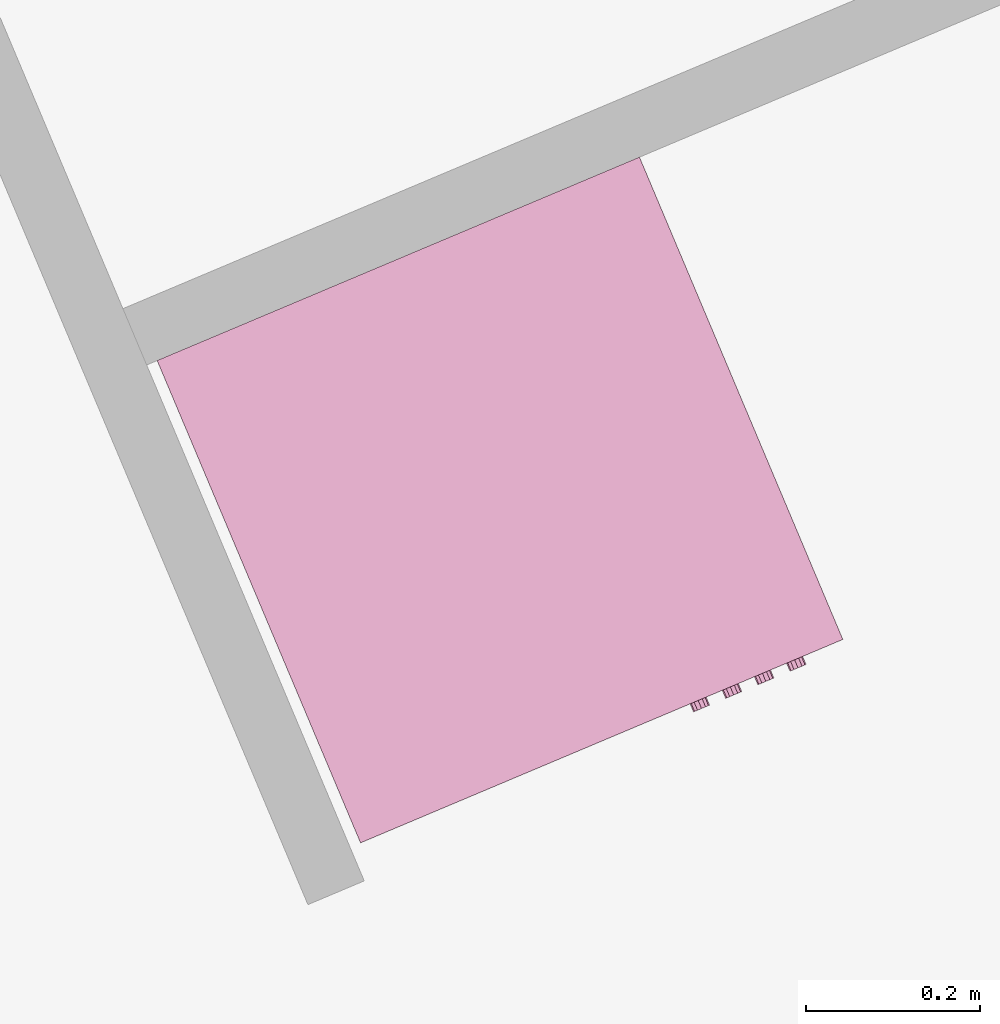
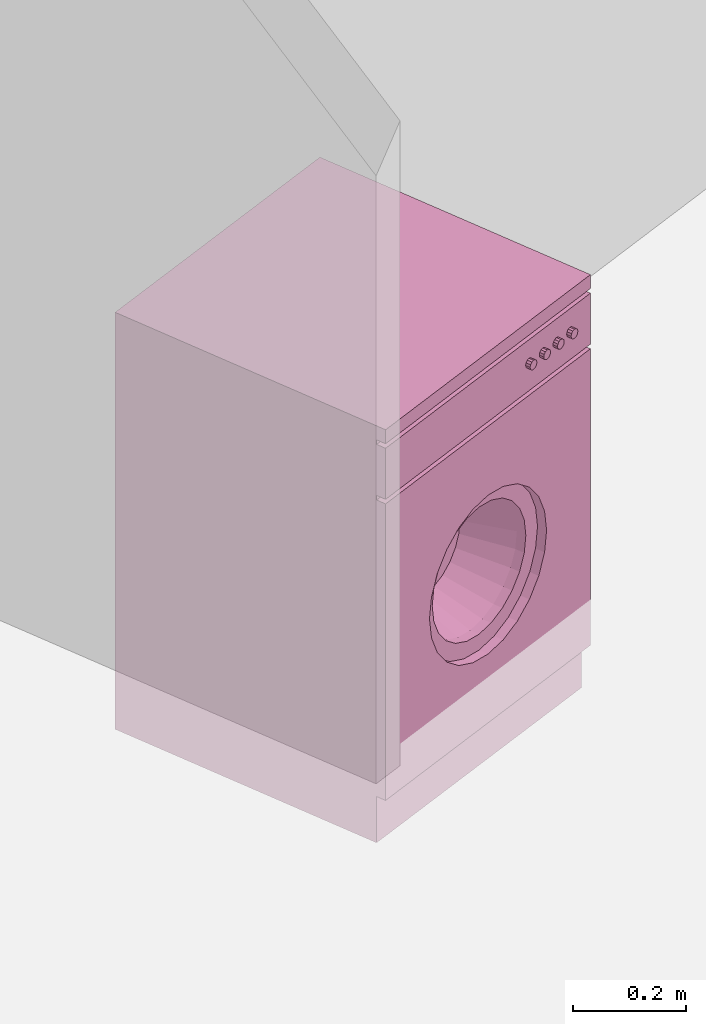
# One storey, part 157 of 195: 1 furnishing.
"""IFC2X3 building model written with IfcOpenShell, lengths in metres."""

import ifcopenshell
import ifcopenshell.guid

model = None  # the IFC model being written
_history = None  # IfcOwnerHistory: only IFC2X3 demands one
_inside = {}  # id of a spatial element -> (the spatial element, [elements in it])
_under = {}  # id of a project, library or spatial element -> (it, [spatial elements below it])
_declared = {}  # id of a project -> (the project, [libraries it declares])
_typed = {}  # id of a type object -> (the type object, [elements of that type])
_made_of = {}  # id of a material, layer set ... -> (it, [elements and type objects made of it])


def new_model(schema):
    """Start an empty IFC model of exactly this schema.

    Asked for "IFC4X3", IfcOpenShell would pick the latest addendum, in which some entities
    have other attributes; the version numbers below select the first issue.
    IFC2X3 requires an IfcOwnerHistory on every rooted entity: one is made here for all.
    """
    global model, _history
    if schema == "IFC4X3":
        model = ifcopenshell.file(schema_version=(4, 3, 0, 0))
    else:
        model = ifcopenshell.file(schema=schema)
    _inside.clear()
    _under.clear()
    _declared.clear()
    _typed.clear()
    _made_of.clear()
    _history = None
    if model.schema == "IFC2X3":
        org = make("IfcOrganization", Name="unknown")
        user = make(
            "IfcPersonAndOrganization",
            ThePerson=make("IfcPerson", FamilyName="unknown"),
            TheOrganization=org,
        )
        app = make(
            "IfcApplication",
            ApplicationDeveloper=org,
            Version="unknown",
            ApplicationFullName="unknown",
            ApplicationIdentifier="unknown",
        )
        _history = make(
            "IfcOwnerHistory",
            OwningUser=user,
            OwningApplication=app,
            ChangeAction="ADDED",
            CreationDate=0,
        )
    return model


def make(cls, **values):
    """One entity of the class cls with the attributes given. An attribute that is None is left unset."""
    return model.create_entity(
        cls, **{name: value for name, value in values.items() if value is not None}
    )


def entity(cls, *values):
    """Any entity or typed value of the class cls, its attributes in the order of the schema. None: left unset."""
    e = model.create_entity(cls)
    for i, value in enumerate(values):
        if value is not None:
            e[i] = value
    return e


def rooted(cls, **values):
    """An entity with a GlobalId (a new one), such as an element, a storey or a relation."""
    return make(cls, GlobalId=ifcopenshell.guid.new(), OwnerHistory=_history, **values)


def si_unit(unit_type, name, prefix=None):
    """IfcSIUnit, for example si_unit("LENGTHUNIT", "METRE", prefix="MILLI")."""
    return make("IfcSIUnit", UnitType=unit_type, Prefix=prefix, Name=name)


def converted_unit(unit_type, name, factor, base, dimensions=None, offset=None):
    """IfcConversionBasedUnit, such as the inch: factor (a typed value) times the base unit."""
    return make(
        "IfcConversionBasedUnit"
        if offset is None
        else "IfcConversionBasedUnitWithOffset",
        ConversionOffset=offset,
        Dimensions=None
        if dimensions is None
        else entity("IfcDimensionalExponents", *dimensions),
        UnitType=unit_type,
        Name=name,
        ConversionFactor=make(
            "IfcMeasureWithUnit", ValueComponent=factor, UnitComponent=base
        ),
    )


def derived_unit(unit_type, elements):
    """IfcDerivedUnit: a product of units, each with its exponent."""
    return make(
        "IfcDerivedUnit",
        Elements=[
            make("IfcDerivedUnitElement", Unit=unit, Exponent=power)
            for unit, power in elements
        ],
        UnitType=unit_type,
    )


def money_unit(currency):
    """IfcMonetaryUnit."""
    return make("IfcMonetaryUnit", Currency=currency)


def assignment(units):
    """IfcUnitAssignment: the units of a project."""
    return None if units is None else make("IfcUnitAssignment", Units=units)


def point(xyz):
    """IfcCartesianPoint."""
    return None if xyz is None else make("IfcCartesianPoint", Coordinates=xyz)


def direction(xyz):
    """IfcDirection."""
    return None if xyz is None else make("IfcDirection", DirectionRatios=xyz)


def frame(location, z_axis=None, x_axis=None):
    """IfcAxis2Placement3D, a coordinate frame: its origin and axes. An axis left out is left unset."""
    return make(
        "IfcAxis2Placement3D",
        Location=point(location),
        Axis=direction(z_axis),
        RefDirection=direction(x_axis),
    )


def origin_with_axes():
    """The frame at (0, 0, 0) with the z axis (0, 0, 1) and the x axis (1, 0, 0) written out."""
    return frame((0.0, 0.0, 0.0), z_axis=(0.0, 0.0, 1.0), x_axis=(1.0, 0.0, 0.0))


def place(relative_to, where):
    """IfcLocalPlacement: puts the frame where relative to a parent placement (None: the world)."""
    return make(
        "IfcLocalPlacement", PlacementRelTo=relative_to, RelativePlacement=where
    )


def context(
    kind, dimensions, precision=None, world=None, true_north=None, identifier=None
):
    """IfcGeometricRepresentationContext, for example the 3D "Model" context."""
    return make(
        "IfcGeometricRepresentationContext",
        ContextIdentifier=identifier,
        ContextType=kind,
        CoordinateSpaceDimension=dimensions,
        Precision=precision,
        WorldCoordinateSystem=world,
        TrueNorth=true_north,
    )


def subcontext(parent, identifier, kind, view, scale=None):
    """IfcGeometricRepresentationSubContext, for example "Body" below "Model"."""
    return make(
        "IfcGeometricRepresentationSubContext",
        ContextIdentifier=identifier,
        ContextType=kind,
        ParentContext=parent,
        TargetScale=scale,
        TargetView=view,
    )


def project(units=None, contexts=None):
    """IfcProject with its units and contexts."""
    return rooted(
        "IfcProject",
        Name="project",
        RepresentationContexts=contexts,
        UnitsInContext=assignment(units),
    )


def spatial(cls, under=None, at=None, **own):
    """A site, building, storey or space (cls), placed at a placement, below another one or the project."""
    s = rooted(cls, ObjectPlacement=at, **own)
    if under is not None:
        _under.setdefault(under.id(), (under, []))[1].append(s)
    return s


def faces_of(points, faces, orient=None, outer=None):
    """IfcFace entities. A face is a list of loops; a loop is a list of indices into points, from 0.

    orient and outer hold one flag for each loop. By default every Orientation is true, the
    first loop of a face is its IfcFaceOuterBound and the others are IfcFaceBound.
    """
    made = []
    for i, loops in enumerate(faces):
        bounds = []
        for j, loop in enumerate(loops):
            is_outer = j == 0 if outer is None else outer[i][j]
            bounds.append(
                make(
                    "IfcFaceOuterBound" if is_outer else "IfcFaceBound",
                    Bound=make("IfcPolyLoop", Polygon=[points[k] for k in loop]),
                    Orientation=True if orient is None else orient[i][j],
                )
            )
        made.append(make("IfcFace", Bounds=bounds))
    return made


def open_shell(faces, orient=None, outer=None):
    """The faces of one IfcOpenShell. surface_model builds it on its shared points."""
    return ("IfcOpenShell", faces, orient, outer)


def faceted_brep(points, faces, orient=None, outer=None, voids=None):
    """IfcFacetedBrep: a solid bounded by flat faces; with voids (closed shells), ...WithVoids."""
    shared = [point(p) for p in points]
    hull = make("IfcClosedShell", CfsFaces=faces_of(shared, faces, orient, outer))
    if voids is None:
        return make("IfcFacetedBrep", Outer=hull)
    return make(
        "IfcFacetedBrepWithVoids",
        Outer=hull,
        Voids=[
            make(cls, CfsFaces=faces_of(shared, fs, o, b)) for cls, fs, o, b in voids
        ],
    )


def surface_model(cls, points, shells):
    """IfcFaceBasedSurfaceModel or IfcShellBasedSurfaceModel (cls): surfaces that need not close."""
    shared = [point(p) for p in points]
    made = [make(c, CfsFaces=faces_of(shared, fs, o, b)) for c, fs, o, b in shells]
    if cls == "IfcFaceBasedSurfaceModel":
        return make(cls, FbsmFaces=made)
    return make(cls, SbsmBoundary=made)


def shape(context_of_items, identifier, shape_type, items):
    """IfcShapeRepresentation: the items that make up one representation, for example the "Body"."""
    return make(
        "IfcShapeRepresentation",
        ContextOfItems=context_of_items,
        RepresentationIdentifier=identifier,
        RepresentationType=shape_type,
        Items=items,
    )


def source(mapping_origin, context_of_items, identifier, shape_type, items):
    """IfcRepresentationMap: a shape defined once, which mapped items show again and again."""
    return make(
        "IfcRepresentationMap",
        MappingOrigin=mapping_origin,
        MappedRepresentation=shape(context_of_items, identifier, shape_type, items),
    )


def transform(
    local_origin,
    x_axis=None,
    y_axis=None,
    z_axis=None,
    scale=None,
    scale2=None,
    scale3=None,
    uniform=True,
):
    """IfcCartesianTransformationOperator3D, or its non-uniform kind. x_axis, y_axis, z_axis: its Axis1, 2, 3."""
    if uniform:
        return make(
            "IfcCartesianTransformationOperator3D",
            Axis1=direction(x_axis),
            Axis2=direction(y_axis),
            LocalOrigin=point(local_origin),
            Scale=scale,
            Axis3=direction(z_axis),
        )
    return make(
        "IfcCartesianTransformationOperator3DnonUniform",
        Axis1=direction(x_axis),
        Axis2=direction(y_axis),
        LocalOrigin=point(local_origin),
        Scale=scale,
        Axis3=direction(z_axis),
        Scale2=scale2,
        Scale3=scale3,
    )


def mapped(mapping_source, mapping_target):
    """IfcMappedItem: shows the shape of a source again, moved by a transform."""
    return make(
        "IfcMappedItem", MappingSource=mapping_source, MappingTarget=mapping_target
    )


def made_of(thing, what):
    """Note that an element or type object is made of a material, layer set ...; save() writes the relation."""
    if what is not None:
        _made_of.setdefault(what.id(), (what, []))[1].append(thing)
    return thing


def type_object(cls, material=None, **own):
    """A type object (cls), such as IfcWallType, which elements share."""
    return made_of(rooted(cls, **own), material)


def element(
    cls,
    number,
    at=None,
    inside=None,
    cuts=None,
    type_object=None,
    material=None,
    context=None,
    identifier="Body",
    shape_type=None,
    held_by="IfcProductDefinitionShape",
    body=None,
    shapes=None,
    **own,
):
    """One element of the class cls, such as IfcWall. Its Tag is "e" and its number.

    at: its placement. inside: the storey or other place that contains it. cuts: it is an
    opening in that element (IfcRelVoidsElement). A single representation is given by context,
    identifier, shape_type and body (its items); several are given by shapes. held_by: the class
    of the entity that holds the representations. save() writes the other relations.
    """
    e = rooted(cls, Tag="e%d" % number, ObjectPlacement=at, **own)
    if body is not None:
        shapes = [shape(context, identifier, shape_type, body)]
    if shapes is not None:
        e.Representation = make(held_by, Representations=shapes)
    if inside is not None:
        _inside.setdefault(inside.id(), (inside, []))[1].append(e)
    if cuts is not None:
        rooted(
            "IfcRelVoidsElement", RelatingBuildingElement=cuts, RelatedOpeningElement=e
        )
    if type_object is not None:
        _typed.setdefault(type_object.id(), (type_object, []))[1].append(e)
    return made_of(e, material)


def aggregate(whole, parts):
    """IfcRelAggregates: a whole, such as a stair, and the parts it consists of."""
    return rooted("IfcRelAggregates", RelatingObject=whole, RelatedObjects=parts)


def save(model, path):
    """Write the relations noted so far, then the file.

    IfcRelAggregates (storeys below a building ...), IfcRelContainedInSpatialStructure (elements
    in a storey), IfcRelDefinesByType, IfcRelAssociatesMaterial and IfcRelDeclares: one each for
    every whole, place, type object, material and project.
    """
    for whole, parts in _under.values():
        aggregate(whole, parts)
    for where, things in _inside.values():
        rooted(
            "IfcRelContainedInSpatialStructure",
            RelatedElements=things,
            RelatingStructure=where,
        )
    for kind, things in _typed.values():
        rooted("IfcRelDefinesByType", RelatedObjects=things, RelatingType=kind)
    for what, things in _made_of.values():
        rooted("IfcRelAssociatesMaterial", RelatedObjects=things, RelatingMaterial=what)
    for by, libraries in _declared.values():
        rooted("IfcRelDeclares", RelatingContext=by, RelatedDefinitions=libraries)
    model.write(path)


model = new_model("IFC2X3")

# Units and contexts
model_context = context("Model", 3, precision=1e-05, world=origin_with_axes(), true_north=direction((0.0, 1.0)))
body_context = subcontext(model_context, "Body", "Model", "MODEL_VIEW")
ifc_project = project(units=[si_unit("LENGTHUNIT", "METRE"), si_unit("AREAUNIT", "SQUARE_METRE"), si_unit("VOLUMEUNIT", "CUBIC_METRE"), converted_unit("PLANEANGLEUNIT", "DEGREE", entity("IfcPlaneAngleMeasure", 0.0174532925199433), si_unit("PLANEANGLEUNIT", "RADIAN"), dimensions=[0, 0, 0, 0, 0, 0, 0]), money_unit("CHF"), converted_unit("TIMEUNIT", "Year", entity("IfcTimeMeasure", 31557600.0), si_unit("TIMEUNIT", "SECOND"), dimensions=[0, 0, 1, 0, 0, 0, 0]), si_unit("MASSUNIT", "GRAM", prefix="KILO"), si_unit("THERMODYNAMICTEMPERATUREUNIT", "DEGREE_CELSIUS"), si_unit("LUMINOUSINTENSITYUNIT", "LUMEN"), si_unit("ENERGYUNIT", "JOULE", prefix="MEGA"), derived_unit("THERMALCONDUCTANCEUNIT", [(si_unit("POWERUNIT", "WATT"), 1), (si_unit("LENGTHUNIT", "METRE"), -1), (si_unit("THERMODYNAMICTEMPERATUREUNIT", "KELVIN"), -1)]), derived_unit("SPECIFICHEATCAPACITYUNIT", [(si_unit("ENERGYUNIT", "JOULE"), 1), (si_unit("MASSUNIT", "GRAM", prefix="KILO"), -1), (si_unit("THERMODYNAMICTEMPERATUREUNIT", "KELVIN"), -1)]), derived_unit("MASSDENSITYUNIT", [(si_unit("MASSUNIT", "GRAM", prefix="KILO"), 1), (si_unit("VOLUMEUNIT", "CUBIC_METRE"), -1)])], contexts=[model_context])

# Site, building, storey
site_placement = place(None, origin_with_axes())
site = spatial("IfcSite", under=ifc_project, at=site_placement, Name="Site", CompositionType="ELEMENT")
building_placement = place(site_placement, origin_with_axes())
building = spatial("IfcBuilding", under=site, at=building_placement, Name="Bâtiment", CompositionType="ELEMENT")
storey_placement = place(building_placement, origin_with_axes())
storey = spatial("IfcBuildingStorey", under=building, at=storey_placement, Name="rdc", CompositionType="ELEMENT", Elevation=0.0)

# Furnishing
furnishing_element_type = type_object("IfcFurnishingElementType", Name="Machine à laver")
shared_shape = source(origin_with_axes(), body_context, "Body", "SurfaceModel", [
    faceted_brep([(0.0, 0.02, 0.1), (0.0, 0.0, 0.1), (-0.6, 0.0, 0.1), (-0.6, 0.02, 0.1), (0.0, 0.02000000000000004, 0.74), (0.0, 0.0, 0.74), (-0.6, 0.0, 0.74), (-0.4714285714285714, 0.0, 0.42), (-0.4655872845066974, 0.0, 0.4643689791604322), (-0.448461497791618, 0.0, 0.5057142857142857), (-0.4212183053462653, 0.0, 0.5412183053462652), (-0.3857142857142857, 0.0, 0.568461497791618), (-0.3443689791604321, 0.0, 0.5855872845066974), (-0.3, 0.0, 0.5914285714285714), (-0.2556310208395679, 0.0, 0.5855872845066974), (-0.2142857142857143, 0.0, 0.5684614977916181), (-0.1787816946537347, 0.0, 0.5412183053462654), (-0.1515385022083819, 0.0, 0.5057142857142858), (-0.1344127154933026, 0.0, 0.4643689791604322), (-0.1285714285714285, 0.0, 0.42), (-0.1344127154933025, 0.0, 0.3756310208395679), (-0.1515385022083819, 0.0, 0.3342857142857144), (-0.1787816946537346, 0.0, 0.2987816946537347), (-0.2142857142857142, 0.0, 0.2715385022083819), (-0.2556310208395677, 0.0, 0.2544127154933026), (-0.2999999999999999, 0.0, 0.2485714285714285), (-0.344368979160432, 0.0, 0.2544127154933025), (-0.3857142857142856, 0.0, 0.2715385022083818), (-0.4212183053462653, 0.0, 0.2987816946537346), (-0.448461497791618, 0.0, 0.3342857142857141), (-0.4655872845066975, 0.0, 0.3756310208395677), (-0.6, 0.02000000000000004, 0.74), (-0.4714285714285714, 0.02000000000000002, 0.42), (-0.4655872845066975, 0.02000000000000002, 0.3756310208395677), (-0.448461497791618, 0.02000000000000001, 0.3342857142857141), (-0.4212183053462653, 0.02000000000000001, 0.2987816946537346), (-0.3857142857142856, 0.02000000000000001, 0.2715385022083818), (-0.344368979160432, 0.02000000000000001, 0.2544127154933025), (-0.2999999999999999, 0.02000000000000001, 0.2485714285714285), (-0.2556310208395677, 0.02000000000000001, 0.2544127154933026), (-0.2142857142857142, 0.02000000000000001, 0.2715385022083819), (-0.1787816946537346, 0.02000000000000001, 0.2987816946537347), (-0.1515385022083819, 0.02000000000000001, 0.3342857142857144), (-0.1344127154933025, 0.02000000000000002, 0.3756310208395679), (-0.1285714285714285, 0.02000000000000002, 0.42), (-0.1344127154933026, 0.02000000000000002, 0.4643689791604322), (-0.1515385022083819, 0.02000000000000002, 0.5057142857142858), (-0.1787816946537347, 0.02000000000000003, 0.5412183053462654), (-0.2142857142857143, 0.02000000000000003, 0.5684614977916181), (-0.2556310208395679, 0.02000000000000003, 0.5855872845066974), (-0.3, 0.02000000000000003, 0.5914285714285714), (-0.3443689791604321, 0.02000000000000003, 0.5855872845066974), (-0.3857142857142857, 0.02000000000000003, 0.568461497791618), (-0.4212183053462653, 0.02000000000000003, 0.5412183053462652), (-0.448461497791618, 0.02000000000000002, 0.5057142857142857), (-0.4655872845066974, 0.02000000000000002, 0.4643689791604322)], [[[0, 1, 2, 3]], [[4, 5, 1, 0]], [[1, 5, 6, 2], [7, 8, 9, 10, 11, 12, 13, 14, 15, 16, 17, 18, 19, 20, 21, 22, 23, 24, 25, 26, 27, 28, 29, 30]], [[3, 2, 6, 31]], [[0, 3, 31, 4], [32, 33, 34, 35, 36, 37, 38, 39, 40, 41, 42, 43, 44, 45, 46, 47, 48, 49, 50, 51, 52, 53, 54, 55]], [[31, 6, 5, 4]], [[55, 8, 7, 32]], [[54, 9, 8, 55]], [[53, 10, 9, 54]], [[52, 11, 10, 53]], [[51, 12, 11, 52]], [[50, 13, 12, 51]], [[49, 14, 13, 50]], [[48, 15, 14, 49]], [[47, 16, 15, 48]], [[46, 17, 16, 47]], [[45, 18, 17, 46]], [[44, 19, 18, 45]], [[43, 20, 19, 44]], [[42, 21, 20, 43]], [[41, 22, 21, 42]], [[40, 23, 22, 41]], [[39, 24, 23, 40]], [[38, 25, 24, 39]], [[37, 26, 25, 38]], [[36, 27, 26, 37]], [[35, 28, 27, 36]], [[34, 29, 28, 35]], [[33, 30, 29, 34]], [[32, 7, 30, 33]]]),
    faceted_brep([(-0.4714285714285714, 0.04000000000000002, 0.42), (-0.4714285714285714, 0.02000000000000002, 0.42), (-0.4655872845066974, 0.02000000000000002, 0.4643689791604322), (-0.4655872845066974, 0.04000000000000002, 0.4643689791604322), (-0.4655872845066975, 0.04000000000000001, 0.3756310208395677), (-0.4655872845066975, 0.02000000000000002, 0.3756310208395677), (-0.448461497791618, 0.02000000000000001, 0.3342857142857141), (-0.4212183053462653, 0.02000000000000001, 0.2987816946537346), (-0.3857142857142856, 0.02000000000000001, 0.2715385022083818), (-0.344368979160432, 0.02000000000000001, 0.2544127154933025), (-0.2999999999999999, 0.02000000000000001, 0.2485714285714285), (-0.2556310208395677, 0.02000000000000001, 0.2544127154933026), (-0.2142857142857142, 0.02000000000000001, 0.2715385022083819), (-0.1787816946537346, 0.02000000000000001, 0.2987816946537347), (-0.1515385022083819, 0.02000000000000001, 0.3342857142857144), (-0.1344127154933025, 0.02000000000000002, 0.3756310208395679), (-0.1285714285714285, 0.02000000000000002, 0.42), (-0.1344127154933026, 0.02000000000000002, 0.4643689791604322), (-0.1515385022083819, 0.02000000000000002, 0.5057142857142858), (-0.1787816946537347, 0.02000000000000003, 0.5412183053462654), (-0.2142857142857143, 0.02000000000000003, 0.5684614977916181), (-0.2556310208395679, 0.02000000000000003, 0.5855872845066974), (-0.3, 0.02000000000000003, 0.5914285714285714), (-0.3443689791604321, 0.02000000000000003, 0.5855872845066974), (-0.3857142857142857, 0.02000000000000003, 0.568461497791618), (-0.4212183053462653, 0.02000000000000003, 0.5412183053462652), (-0.448461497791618, 0.02000000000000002, 0.5057142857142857), (-0.4371428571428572, 0.02000000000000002, 0.42), (-0.432469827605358, 0.02000000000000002, 0.4554951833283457), (-0.4187691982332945, 0.02000000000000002, 0.4885714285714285), (-0.3969746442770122, 0.02000000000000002, 0.5169746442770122), (-0.3685714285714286, 0.02000000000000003, 0.5387691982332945), (-0.3354951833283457, 0.02000000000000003, 0.552469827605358), (-0.3, 0.02000000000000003, 0.5571428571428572), (-0.2645048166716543, 0.02000000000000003, 0.552469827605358), (-0.2314285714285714, 0.02000000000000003, 0.5387691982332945), (-0.2030253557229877, 0.02000000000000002, 0.5169746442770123), (-0.1812308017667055, 0.02000000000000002, 0.4885714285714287), (-0.167530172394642, 0.02000000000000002, 0.4554951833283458), (-0.1628571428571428, 0.02000000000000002, 0.42), (-0.167530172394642, 0.02000000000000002, 0.3845048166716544), (-0.1812308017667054, 0.02000000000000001, 0.3514285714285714), (-0.2030253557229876, 0.02000000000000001, 0.3230253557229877), (-0.2314285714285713, 0.02000000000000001, 0.3012308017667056), (-0.2645048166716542, 0.02000000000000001, 0.287530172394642), (-0.2999999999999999, 0.02000000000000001, 0.2828571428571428), (-0.3354951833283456, 0.02000000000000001, 0.287530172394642), (-0.3685714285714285, 0.02000000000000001, 0.3012308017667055), (-0.3969746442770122, 0.02000000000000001, 0.3230253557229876), (-0.4187691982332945, 0.02000000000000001, 0.3514285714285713), (-0.432469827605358, 0.02000000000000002, 0.3845048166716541), (-0.448461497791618, 0.04000000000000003, 0.5057142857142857), (-0.4212183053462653, 0.04000000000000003, 0.5412183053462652), (-0.3857142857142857, 0.04000000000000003, 0.568461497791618), (-0.3443689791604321, 0.04000000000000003, 0.5855872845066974), (-0.3, 0.04000000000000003, 0.5914285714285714), (-0.2556310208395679, 0.04000000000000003, 0.5855872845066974), (-0.2142857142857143, 0.04000000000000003, 0.5684614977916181), (-0.1787816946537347, 0.04000000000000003, 0.5412183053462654), (-0.1515385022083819, 0.04000000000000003, 0.5057142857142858), (-0.1344127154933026, 0.04000000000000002, 0.4643689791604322), (-0.1285714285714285, 0.04000000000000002, 0.42), (-0.1344127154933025, 0.04000000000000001, 0.3756310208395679), (-0.1515385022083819, 0.04000000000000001, 0.3342857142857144), (-0.1787816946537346, 0.04000000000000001, 0.2987816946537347), (-0.2142857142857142, 0.04000000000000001, 0.2715385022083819), (-0.2556310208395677, 0.04000000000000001, 0.2544127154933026), (-0.2999999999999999, 0.04000000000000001, 0.2485714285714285), (-0.344368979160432, 0.04000000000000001, 0.2544127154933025), (-0.3857142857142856, 0.04000000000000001, 0.2715385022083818), (-0.4212183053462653, 0.04000000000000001, 0.2987816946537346), (-0.448461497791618, 0.04000000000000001, 0.3342857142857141), (-0.4371428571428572, 0.04000000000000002, 0.42), (-0.432469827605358, 0.04000000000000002, 0.3845048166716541), (-0.4187691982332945, 0.04000000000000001, 0.3514285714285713), (-0.3969746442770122, 0.04000000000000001, 0.3230253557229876), (-0.3685714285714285, 0.04000000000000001, 0.3012308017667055), (-0.3354951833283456, 0.04000000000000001, 0.287530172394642), (-0.2999999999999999, 0.04000000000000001, 0.2828571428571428), (-0.2645048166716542, 0.04000000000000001, 0.287530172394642), (-0.2314285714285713, 0.04000000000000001, 0.3012308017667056), (-0.2030253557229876, 0.04000000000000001, 0.3230253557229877), (-0.1812308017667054, 0.04000000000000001, 0.3514285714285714), (-0.167530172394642, 0.04000000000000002, 0.3845048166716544), (-0.1628571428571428, 0.04000000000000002, 0.42), (-0.167530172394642, 0.04000000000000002, 0.4554951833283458), (-0.1812308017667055, 0.04000000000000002, 0.4885714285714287), (-0.2030253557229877, 0.04000000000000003, 0.5169746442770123), (-0.2314285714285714, 0.04000000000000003, 0.5387691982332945), (-0.2645048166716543, 0.04000000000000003, 0.552469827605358), (-0.3, 0.04000000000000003, 0.5571428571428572), (-0.3354951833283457, 0.04000000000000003, 0.552469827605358), (-0.3685714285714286, 0.04000000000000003, 0.5387691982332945), (-0.3969746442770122, 0.04000000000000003, 0.5169746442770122), (-0.4187691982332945, 0.04000000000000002, 0.4885714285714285), (-0.432469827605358, 0.04000000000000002, 0.4554951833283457)], [[[0, 1, 2, 3]], [[4, 5, 1, 0]], [[1, 5, 6, 7, 8, 9, 10, 11, 12, 13, 14, 15, 16, 17, 18, 19, 20, 21, 22, 23, 24, 25, 26, 2], [27, 28, 29, 30, 31, 32, 33, 34, 35, 36, 37, 38, 39, 40, 41, 42, 43, 44, 45, 46, 47, 48, 49, 50]], [[3, 2, 26, 51]], [[0, 3, 51, 52, 53, 54, 55, 56, 57, 58, 59, 60, 61, 62, 63, 64, 65, 66, 67, 68, 69, 70, 71, 4], [72, 73, 74, 75, 76, 77, 78, 79, 80, 81, 82, 83, 84, 85, 86, 87, 88, 89, 90, 91, 92, 93, 94, 95]], [[71, 6, 5, 4]], [[70, 7, 6, 71]], [[69, 8, 7, 70]], [[68, 9, 8, 69]], [[67, 10, 9, 68]], [[66, 11, 10, 67]], [[65, 12, 11, 66]], [[64, 13, 12, 65]], [[63, 14, 13, 64]], [[62, 15, 14, 63]], [[61, 16, 15, 62]], [[60, 17, 16, 61]], [[59, 18, 17, 60]], [[58, 19, 18, 59]], [[57, 20, 19, 58]], [[56, 21, 20, 57]], [[55, 22, 21, 56]], [[54, 23, 22, 55]], [[53, 24, 23, 54]], [[52, 25, 24, 53]], [[51, 26, 25, 52]], [[95, 28, 27, 72]], [[94, 29, 28, 95]], [[93, 30, 29, 94]], [[92, 31, 30, 93]], [[91, 32, 31, 92]], [[90, 33, 32, 91]], [[89, 34, 33, 90]], [[88, 35, 34, 89]], [[87, 36, 35, 88]], [[86, 37, 36, 87]], [[85, 38, 37, 86]], [[84, 39, 38, 85]], [[83, 40, 39, 84]], [[82, 41, 40, 83]], [[81, 42, 41, 82]], [[80, 43, 42, 81]], [[79, 44, 43, 80]], [[78, 45, 44, 79]], [[77, 46, 45, 78]], [[76, 47, 46, 77]], [[75, 48, 47, 76]], [[74, 49, 48, 75]], [[73, 50, 49, 74]], [[72, 27, 50, 73]]]),
    surface_model("IfcShellBasedSurfaceModel", [(-0.2645048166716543, 0.03999999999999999, 0.552469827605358), (-0.2733786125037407, 0.14, 0.5193523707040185), (-0.3, 0.14, 0.5228571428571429), (-0.3, 0.03999999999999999, 0.5571428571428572), (-0.2314285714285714, 0.03999999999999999, 0.5387691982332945), (-0.2485714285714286, 0.14, 0.5090768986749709), (-0.2272690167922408, 0.14, 0.4927309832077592), (-0.2109231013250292, 0.14, 0.4714285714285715), (-0.2006476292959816, 0.14, 0.4466213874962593), (-0.1971428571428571, 0.14, 0.4200000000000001), (-0.2006476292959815, 0.14, 0.3933786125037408), (-0.2109231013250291, 0.14, 0.3685714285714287), (-0.2272690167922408, 0.14, 0.3472690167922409), (-0.2485714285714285, 0.14, 0.3309231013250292), (-0.2733786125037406, 0.14, 0.3206476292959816), (-0.2999999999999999, 0.14, 0.3171428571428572), (-0.3266213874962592, 0.14, 0.3206476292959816), (-0.3514285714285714, 0.14, 0.3309231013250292), (-0.3727309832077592, 0.14, 0.3472690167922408), (-0.3890768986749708, 0.14, 0.3685714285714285), (-0.3993523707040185, 0.14, 0.3933786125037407), (-0.4028571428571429, 0.14, 0.42), (-0.3993523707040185, 0.14, 0.4466213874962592), (-0.3890768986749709, 0.14, 0.4714285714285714), (-0.3727309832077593, 0.14, 0.4927309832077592), (-0.3514285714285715, 0.14, 0.5090768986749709), (-0.3266213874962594, 0.14, 0.5193523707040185), (-0.3354951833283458, 0.03999999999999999, 0.552469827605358), (-0.2030253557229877, 0.03999999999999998, 0.5169746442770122), (-0.1812308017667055, 0.03999999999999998, 0.4885714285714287), (-0.167530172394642, 0.03999999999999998, 0.4554951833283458), (-0.1628571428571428, 0.03999999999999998, 0.4200000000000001), (-0.167530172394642, 0.03999999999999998, 0.3845048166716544), (-0.1812308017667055, 0.03999999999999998, 0.3514285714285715), (-0.2030253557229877, 0.03999999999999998, 0.3230253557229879), (-0.2314285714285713, 0.03999999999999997, 0.3012308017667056), (-0.2645048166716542, 0.03999999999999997, 0.2875301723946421), (-0.2999999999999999, 0.03999999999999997, 0.2828571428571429), (-0.3354951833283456, 0.03999999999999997, 0.2875301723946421), (-0.3685714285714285, 0.03999999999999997, 0.3012308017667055), (-0.3969746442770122, 0.03999999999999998, 0.3230253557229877), (-0.4187691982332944, 0.03999999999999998, 0.3514285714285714), (-0.432469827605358, 0.03999999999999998, 0.3845048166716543), (-0.4371428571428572, 0.03999999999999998, 0.4199999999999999), (-0.432469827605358, 0.03999999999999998, 0.4554951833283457), (-0.4187691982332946, 0.03999999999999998, 0.4885714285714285), (-0.3969746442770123, 0.03999999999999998, 0.5169746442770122), (-0.3685714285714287, 0.03999999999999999, 0.5387691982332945)], [open_shell([[[0, 1, 2, 3]], [[4, 5, 1, 0]], [[2, 1, 5, 6, 7, 8, 9, 10, 11, 12, 13, 14, 15, 16, 17, 18, 19, 20, 21, 22, 23, 24, 25, 26]], [[3, 2, 26, 27]], [[28, 6, 5, 4]], [[29, 7, 6, 28]], [[30, 8, 7, 29]], [[31, 9, 8, 30]], [[32, 10, 9, 31]], [[33, 11, 10, 32]], [[34, 12, 11, 33]], [[35, 13, 12, 34]], [[36, 14, 13, 35]], [[37, 15, 14, 36]], [[38, 16, 15, 37]], [[39, 17, 16, 38]], [[40, 18, 17, 39]], [[41, 19, 18, 40]], [[42, 20, 19, 41]], [[43, 21, 20, 42]], [[44, 22, 21, 43]], [[45, 23, 22, 44]], [[46, 24, 23, 45]], [[47, 25, 24, 46]], [[27, 26, 25, 47]]])]),
    surface_model("IfcShellBasedSurfaceModel", [(0.0, 0.02, 0.1), (0.0, 0.6, 0.09999999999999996), (0.0, 0.6, 0.87), (0.0, 0.02000000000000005, 0.87)], [open_shell([[[0, 1, 2, 3]]])]),
    surface_model("IfcShellBasedSurfaceModel", [(-0.6, 0.01999999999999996, 0.1), (-0.6, 0.5999999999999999, 0.09999999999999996), (-0.6, 0.5999999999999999, 0.87), (-0.6, 0.02000000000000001, 0.87)], [open_shell([[[0, 1, 2, 3]]])]),
    surface_model("IfcShellBasedSurfaceModel", [(0.0, 0.6, 0.1), (-0.6, 0.6, 0.1), (-0.6, 0.6, 0.87), (0.0, 0.6, 0.87)], [open_shell([[[0, 1, 2, 3]]])]),
    faceted_brep([(0.0, 0.02, 0.0), (0.0, 0.02, 0.1), (-0.6, 0.02, 0.1), (-0.6, 0.02, 0.0), (0.0, 0.6, 0.0), (0.0, 0.6, 0.1), (-0.6, 0.6, 0.1), (-0.6, 0.6, 0.0)], [[[0, 1, 2, 3]], [[4, 5, 1, 0]], [[1, 5, 6, 2]], [[3, 2, 6, 7]], [[0, 3, 7, 4]], [[7, 6, 5, 4]]]),
    faceted_brep([(0.0, 0.02, 0.75), (0.0, 0.0, 0.75), (-0.6, 0.0, 0.75), (-0.6, 0.02, 0.75), (0.0, 0.02000000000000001, 0.86), (0.0, 0.0, 0.86), (-0.6, 0.0, 0.86), (-0.6, 0.02000000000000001, 0.86)], [[[0, 1, 2, 3]], [[4, 5, 1, 0]], [[1, 5, 6, 2]], [[3, 2, 6, 7]], [[0, 3, 7, 4]], [[7, 6, 5, 4]]]),
    surface_model("IfcShellBasedSurfaceModel", [(0.0, 0.02, 0.74), (-0.6, 0.02, 0.74), (-0.6, 0.02000000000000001, 0.87), (0.0, 0.02000000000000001, 0.87)], [open_shell([[[0, 1, 2, 3]]])]),
    faceted_brep([(0.0, 0.0, 0.87), (0.0, 0.0, 0.9), (-0.6, 0.0, 0.9), (-0.6, 0.0, 0.87), (0.0, 0.6, 0.87), (0.0, 0.6, 0.9), (-0.6, 0.6, 0.9), (-0.6, 0.6, 0.87)], [[[0, 1, 2, 3]], [[4, 5, 1, 0]], [[1, 5, 6, 2]], [[3, 2, 6, 7]], [[0, 3, 7, 4]], [[7, 6, 5, 4]]]),
    faceted_brep([(-0.06866025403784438, 0.0, 0.8049999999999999), (-0.06999999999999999, 0.0, 0.8099999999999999), (-0.06866025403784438, 0.0, 0.815), (-0.065, 0.0, 0.8186602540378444), (-0.06, 0.0, 0.82), (-0.055, 0.0, 0.8186602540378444), (-0.05133974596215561, 0.0, 0.815), (-0.05, 0.0, 0.8099999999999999), (-0.05133974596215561, 0.0, 0.8049999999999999), (-0.05499999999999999, 0.0, 0.8013397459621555), (-0.05999999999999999, 0.0, 0.7999999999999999), (-0.06499999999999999, 0.0, 0.8013397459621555), (-0.06866025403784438, -0.01, 0.8049999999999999), (-0.06999999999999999, -0.01, 0.8099999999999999), (-0.06866025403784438, -0.01, 0.815), (-0.065, -0.01, 0.8186602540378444), (-0.06, -0.01, 0.82), (-0.055, -0.01, 0.8186602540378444), (-0.05133974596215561, -0.01, 0.815), (-0.05, -0.01, 0.8099999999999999), (-0.05133974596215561, -0.01, 0.8049999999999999), (-0.05499999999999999, -0.01, 0.8013397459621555), (-0.05999999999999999, -0.01, 0.7999999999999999), (-0.06499999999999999, -0.01, 0.8013397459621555)], [[[0, 1, 2, 3, 4, 5, 6, 7, 8, 9, 10, 11]], [[0, 12, 13, 1]], [[1, 13, 14, 2]], [[2, 14, 15, 3]], [[3, 15, 16, 4]], [[4, 16, 17, 5]], [[5, 17, 18, 6]], [[6, 18, 19, 7]], [[7, 19, 20, 8]], [[8, 20, 21, 9]], [[9, 21, 22, 10]], [[10, 22, 23, 11]], [[11, 23, 12, 0]], [[12, 23, 22, 21, 20, 19, 18, 17, 16, 15, 14, 13]]]),
    faceted_brep([(-0.1086602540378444, 0.0, 0.8049999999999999), (-0.11, 0.0, 0.8099999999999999), (-0.1086602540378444, 0.0, 0.815), (-0.105, 0.0, 0.8186602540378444), (-0.1, 0.0, 0.82), (-0.095, 0.0, 0.8186602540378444), (-0.09133974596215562, 0.0, 0.815), (-0.09000000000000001, 0.0, 0.8099999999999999), (-0.09133974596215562, 0.0, 0.8049999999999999), (-0.095, 0.0, 0.8013397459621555), (-0.09999999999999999, 0.0, 0.7999999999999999), (-0.105, 0.0, 0.8013397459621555), (-0.1086602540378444, -0.01, 0.8049999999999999), (-0.11, -0.01, 0.8099999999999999), (-0.1086602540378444, -0.01, 0.815), (-0.105, -0.01, 0.8186602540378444), (-0.1, -0.01, 0.82), (-0.095, -0.01, 0.8186602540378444), (-0.09133974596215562, -0.01, 0.815), (-0.09000000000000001, -0.01, 0.8099999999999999), (-0.09133974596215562, -0.01, 0.8049999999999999), (-0.095, -0.01, 0.8013397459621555), (-0.09999999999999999, -0.01, 0.7999999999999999), (-0.105, -0.01, 0.8013397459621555)], [[[0, 1, 2, 3, 4, 5, 6, 7, 8, 9, 10, 11]], [[0, 12, 13, 1]], [[1, 13, 14, 2]], [[2, 14, 15, 3]], [[3, 15, 16, 4]], [[4, 16, 17, 5]], [[5, 17, 18, 6]], [[6, 18, 19, 7]], [[7, 19, 20, 8]], [[8, 20, 21, 9]], [[9, 21, 22, 10]], [[10, 22, 23, 11]], [[11, 23, 12, 0]], [[12, 23, 22, 21, 20, 19, 18, 17, 16, 15, 14, 13]]]),
    faceted_brep([(-0.1486602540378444, 0.0, 0.8049999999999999), (-0.15, 0.0, 0.8099999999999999), (-0.1486602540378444, 0.0, 0.815), (-0.145, 0.0, 0.8186602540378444), (-0.14, 0.0, 0.82), (-0.135, 0.0, 0.8186602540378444), (-0.1313397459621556, 0.0, 0.815), (-0.13, 0.0, 0.8099999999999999), (-0.1313397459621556, 0.0, 0.8049999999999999), (-0.135, 0.0, 0.8013397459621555), (-0.14, 0.0, 0.7999999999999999), (-0.145, 0.0, 0.8013397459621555), (-0.1486602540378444, -0.01, 0.8049999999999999), (-0.15, -0.01, 0.8099999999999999), (-0.1486602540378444, -0.01, 0.815), (-0.145, -0.01, 0.8186602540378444), (-0.14, -0.01, 0.82), (-0.135, -0.01, 0.8186602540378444), (-0.1313397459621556, -0.01, 0.815), (-0.13, -0.01, 0.8099999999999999), (-0.1313397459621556, -0.01, 0.8049999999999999), (-0.135, -0.01, 0.8013397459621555), (-0.14, -0.01, 0.7999999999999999), (-0.145, -0.01, 0.8013397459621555)], [[[0, 1, 2, 3, 4, 5, 6, 7, 8, 9, 10, 11]], [[0, 12, 13, 1]], [[1, 13, 14, 2]], [[2, 14, 15, 3]], [[3, 15, 16, 4]], [[4, 16, 17, 5]], [[5, 17, 18, 6]], [[6, 18, 19, 7]], [[7, 19, 20, 8]], [[8, 20, 21, 9]], [[9, 21, 22, 10]], [[10, 22, 23, 11]], [[11, 23, 12, 0]], [[12, 23, 22, 21, 20, 19, 18, 17, 16, 15, 14, 13]]]),
    faceted_brep([(-0.1886602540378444, 0.0, 0.8049999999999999), (-0.19, 0.0, 0.8099999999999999), (-0.1886602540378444, 0.0, 0.815), (-0.185, 0.0, 0.8186602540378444), (-0.18, 0.0, 0.82), (-0.175, 0.0, 0.8186602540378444), (-0.1713397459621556, 0.0, 0.815), (-0.17, 0.0, 0.8099999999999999), (-0.1713397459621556, 0.0, 0.8049999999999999), (-0.175, 0.0, 0.8013397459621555), (-0.18, 0.0, 0.7999999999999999), (-0.185, 0.0, 0.8013397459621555), (-0.1886602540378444, -0.01, 0.8049999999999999), (-0.19, -0.01, 0.8099999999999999), (-0.1886602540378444, -0.01, 0.815), (-0.185, -0.01, 0.8186602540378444), (-0.18, -0.01, 0.82), (-0.175, -0.01, 0.8186602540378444), (-0.1713397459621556, -0.01, 0.815), (-0.17, -0.01, 0.8099999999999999), (-0.1713397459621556, -0.01, 0.8049999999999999), (-0.175, -0.01, 0.8013397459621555), (-0.18, -0.01, 0.7999999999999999), (-0.185, -0.01, 0.8013397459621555)], [[[0, 1, 2, 3, 4, 5, 6, 7, 8, 9, 10, 11]], [[0, 12, 13, 1]], [[1, 13, 14, 2]], [[2, 14, 15, 3]], [[3, 15, 16, 4]], [[4, 16, 17, 5]], [[5, 17, 18, 6]], [[6, 18, 19, 7]], [[7, 19, 20, 8]], [[8, 20, 21, 9]], [[9, 21, 22, 10]], [[10, 22, 23, 11]], [[11, 23, 12, 0]], [[12, 23, 22, 21, 20, 19, 18, 17, 16, 15, 14, 13]]]),
])
furnishing_placement = place(storey_placement, frame((9572.879934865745, -1052.410420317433, 57.49999999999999), z_axis=(0.0, 0.0, 1.0), x_axis=(0.9214205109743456, 0.3885669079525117, 0.0)))
element("IfcFurnishingElement", 1, at=furnishing_placement, inside=storey, type_object=furnishing_element_type, Name="Obj.-019", context=body_context, shape_type="MappedRepresentation", body=[
    mapped(shared_shape, transform((0.0, 0.0, 0.0))),
])

save(model, "model.ifc")
